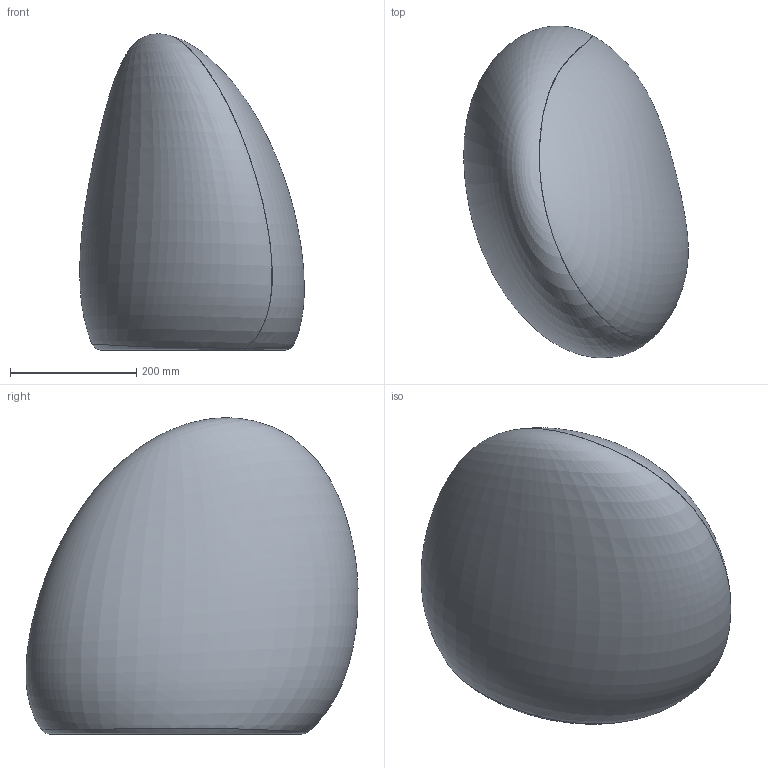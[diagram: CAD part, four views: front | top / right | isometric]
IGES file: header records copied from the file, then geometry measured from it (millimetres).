
Start section: SolidWorks IGES file using analytic representation for surfaces
Global section: file name: X:\PRODUKT\Modele 3D_WWW\_KOLEKCJE WWW\OTOCZAKI-PEBBLE\OTOCZAK M\OTOCZAK M.IGS; native system: SolidWorks 2021; preprocessor: SolidWorks 2021; author: gabriela.tworek; date: 221011.095001; units: millimetre
Bounding box: 355.47 x 525.54 x 500.46 mm (x, y, z)
Surface area: 1400071.4 mm2 (no closed solid volume)
Topology: 0 solids, 0 shells, 10 faces, 39 edges, 36 vertices
Faces by surface type: bspline 10
